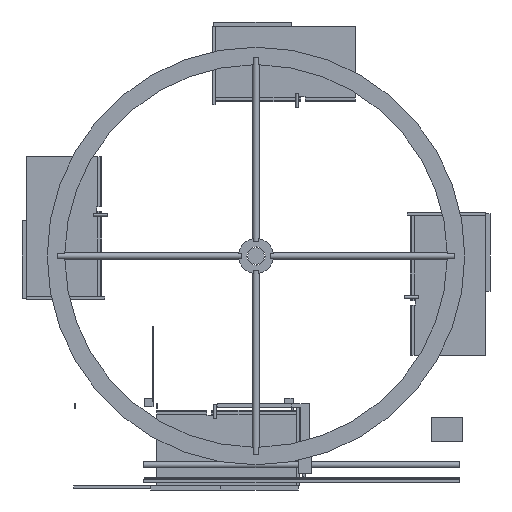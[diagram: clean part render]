
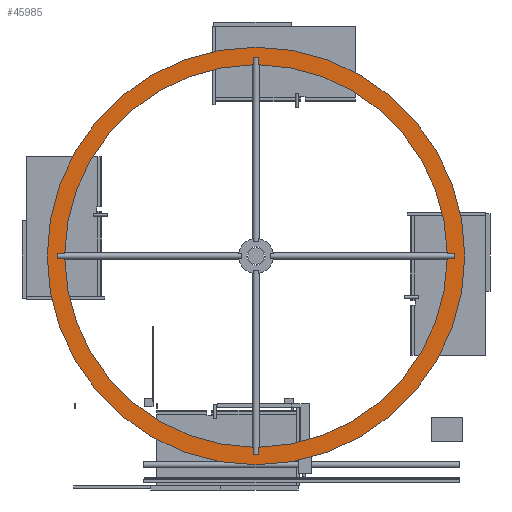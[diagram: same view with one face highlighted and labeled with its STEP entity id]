
A CAD part, left-side view. The second image highlights one B-rep face of the part: STEP entity #45985.
In plain terms, the highlighted planar face has unit normal (-1, 0, 0).
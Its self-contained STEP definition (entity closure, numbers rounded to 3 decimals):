
#45823 = VERTEX_POINT('',#45824);
#45824 = CARTESIAN_POINT('',(-120.,-150.,648.));
#45830 = EDGE_CURVE('',#45823,#45823,#45831,.T.);
#45831 = CIRCLE('',#45832,298.);
#45832 = AXIS2_PLACEMENT_3D('',#45833,#45834,#45835);
#45833 = CARTESIAN_POINT('',(-120.,-150.,350.));
#45834 = DIRECTION('',(1.,0.,-0.));
#45835 = DIRECTION('',(0.,0.,1.));
#45985 = ADVANCED_FACE('',(#45986,#45989),#46123,.F.);
#45986 = FACE_BOUND('',#45987,.F.);
#45987 = EDGE_LOOP('',(#45988));
#45988 = ORIENTED_EDGE('',*,*,#45830,.T.);
#45989 = FACE_BOUND('',#45990,.F.);
#45990 = EDGE_LOOP('',(#45991,#46002,#46010,#46018,#46026,#46035,#46043,
    #46051,#46059,#46068,#46076,#46084,#46092,#46101,#46109,#46117));
#45991 = ORIENTED_EDGE('',*,*,#45992,.F.);
#45992 = EDGE_CURVE('',#45993,#45995,#45997,.T.);
#45993 = VERTEX_POINT('',#45994);
#45994 = CARTESIAN_POINT('',(-120.,-154.,622.971));
#45995 = VERTEX_POINT('',#45996);
#45996 = CARTESIAN_POINT('',(-120.,-422.971,354.));
#45997 = CIRCLE('',#45998,273.);
#45998 = AXIS2_PLACEMENT_3D('',#45999,#46000,#46001);
#45999 = CARTESIAN_POINT('',(-120.,-150.,350.));
#46000 = DIRECTION('',(1.,0.,-0.));
#46001 = DIRECTION('',(0.,0.,1.));
#46002 = ORIENTED_EDGE('',*,*,#46003,.T.);
#46003 = EDGE_CURVE('',#45993,#46004,#46006,.T.);
#46004 = VERTEX_POINT('',#46005);
#46005 = CARTESIAN_POINT('',(-120.,-154.,633.));
#46006 = LINE('',#46007,#46008);
#46007 = CARTESIAN_POINT('',(-120.,-154.,370.));
#46008 = VECTOR('',#46009,1.);
#46009 = DIRECTION('',(0.,0.,1.));
#46010 = ORIENTED_EDGE('',*,*,#46011,.F.);
#46011 = EDGE_CURVE('',#46012,#46004,#46014,.T.);
#46012 = VERTEX_POINT('',#46013);
#46013 = CARTESIAN_POINT('',(-120.,-146.,633.));
#46014 = LINE('',#46015,#46016);
#46015 = CARTESIAN_POINT('',(-120.,-150.,633.));
#46016 = VECTOR('',#46017,1.);
#46017 = DIRECTION('',(0.,-1.,0.));
#46018 = ORIENTED_EDGE('',*,*,#46019,.F.);
#46019 = EDGE_CURVE('',#46020,#46012,#46022,.T.);
#46020 = VERTEX_POINT('',#46021);
#46021 = CARTESIAN_POINT('',(-120.,-146.,622.971));
#46022 = LINE('',#46023,#46024);
#46023 = CARTESIAN_POINT('',(-120.,-146.,370.));
#46024 = VECTOR('',#46025,1.);
#46025 = DIRECTION('',(0.,0.,1.));
#46026 = ORIENTED_EDGE('',*,*,#46027,.F.);
#46027 = EDGE_CURVE('',#46028,#46020,#46030,.T.);
#46028 = VERTEX_POINT('',#46029);
#46029 = CARTESIAN_POINT('',(-120.,122.971,354.));
#46030 = CIRCLE('',#46031,273.);
#46031 = AXIS2_PLACEMENT_3D('',#46032,#46033,#46034);
#46032 = CARTESIAN_POINT('',(-120.,-150.,350.));
#46033 = DIRECTION('',(1.,0.,-0.));
#46034 = DIRECTION('',(0.,0.,1.));
#46035 = ORIENTED_EDGE('',*,*,#46036,.T.);
#46036 = EDGE_CURVE('',#46028,#46037,#46039,.T.);
#46037 = VERTEX_POINT('',#46038);
#46038 = CARTESIAN_POINT('',(-120.,133.,354.));
#46039 = LINE('',#46040,#46041);
#46040 = CARTESIAN_POINT('',(-120.,-130.,354.));
#46041 = VECTOR('',#46042,1.);
#46042 = DIRECTION('',(0.,1.,0.));
#46043 = ORIENTED_EDGE('',*,*,#46044,.F.);
#46044 = EDGE_CURVE('',#46045,#46037,#46047,.T.);
#46045 = VERTEX_POINT('',#46046);
#46046 = CARTESIAN_POINT('',(-120.,133.,346.));
#46047 = LINE('',#46048,#46049);
#46048 = CARTESIAN_POINT('',(-120.,133.,350.));
#46049 = VECTOR('',#46050,1.);
#46050 = DIRECTION('',(0.,0.,1.));
#46051 = ORIENTED_EDGE('',*,*,#46052,.F.);
#46052 = EDGE_CURVE('',#46053,#46045,#46055,.T.);
#46053 = VERTEX_POINT('',#46054);
#46054 = CARTESIAN_POINT('',(-120.,122.971,346.));
#46055 = LINE('',#46056,#46057);
#46056 = CARTESIAN_POINT('',(-120.,-130.,346.));
#46057 = VECTOR('',#46058,1.);
#46058 = DIRECTION('',(0.,1.,0.));
#46059 = ORIENTED_EDGE('',*,*,#46060,.F.);
#46060 = EDGE_CURVE('',#46061,#46053,#46063,.T.);
#46061 = VERTEX_POINT('',#46062);
#46062 = CARTESIAN_POINT('',(-120.,-146.,77.029));
#46063 = CIRCLE('',#46064,273.);
#46064 = AXIS2_PLACEMENT_3D('',#46065,#46066,#46067);
#46065 = CARTESIAN_POINT('',(-120.,-150.,350.));
#46066 = DIRECTION('',(1.,0.,-0.));
#46067 = DIRECTION('',(0.,0.,1.));
#46068 = ORIENTED_EDGE('',*,*,#46069,.T.);
#46069 = EDGE_CURVE('',#46061,#46070,#46072,.T.);
#46070 = VERTEX_POINT('',#46071);
#46071 = CARTESIAN_POINT('',(-120.,-146.,67.));
#46072 = LINE('',#46073,#46074);
#46073 = CARTESIAN_POINT('',(-120.,-146.,330.));
#46074 = VECTOR('',#46075,1.);
#46075 = DIRECTION('',(0.,0.,-1.));
#46076 = ORIENTED_EDGE('',*,*,#46077,.F.);
#46077 = EDGE_CURVE('',#46078,#46070,#46080,.T.);
#46078 = VERTEX_POINT('',#46079);
#46079 = CARTESIAN_POINT('',(-120.,-154.,67.));
#46080 = LINE('',#46081,#46082);
#46081 = CARTESIAN_POINT('',(-120.,-150.,67.));
#46082 = VECTOR('',#46083,1.);
#46083 = DIRECTION('',(0.,1.,0.));
#46084 = ORIENTED_EDGE('',*,*,#46085,.F.);
#46085 = EDGE_CURVE('',#46086,#46078,#46088,.T.);
#46086 = VERTEX_POINT('',#46087);
#46087 = CARTESIAN_POINT('',(-120.,-154.,77.029));
#46088 = LINE('',#46089,#46090);
#46089 = CARTESIAN_POINT('',(-120.,-154.,330.));
#46090 = VECTOR('',#46091,1.);
#46091 = DIRECTION('',(0.,0.,-1.));
#46092 = ORIENTED_EDGE('',*,*,#46093,.F.);
#46093 = EDGE_CURVE('',#46094,#46086,#46096,.T.);
#46094 = VERTEX_POINT('',#46095);
#46095 = CARTESIAN_POINT('',(-120.,-422.971,346.));
#46096 = CIRCLE('',#46097,273.);
#46097 = AXIS2_PLACEMENT_3D('',#46098,#46099,#46100);
#46098 = CARTESIAN_POINT('',(-120.,-150.,350.));
#46099 = DIRECTION('',(1.,0.,-0.));
#46100 = DIRECTION('',(0.,0.,1.));
#46101 = ORIENTED_EDGE('',*,*,#46102,.T.);
#46102 = EDGE_CURVE('',#46094,#46103,#46105,.T.);
#46103 = VERTEX_POINT('',#46104);
#46104 = CARTESIAN_POINT('',(-120.,-433.,346.));
#46105 = LINE('',#46106,#46107);
#46106 = CARTESIAN_POINT('',(-120.,-170.,346.));
#46107 = VECTOR('',#46108,1.);
#46108 = DIRECTION('',(0.,-1.,0.));
#46109 = ORIENTED_EDGE('',*,*,#46110,.F.);
#46110 = EDGE_CURVE('',#46111,#46103,#46113,.T.);
#46111 = VERTEX_POINT('',#46112);
#46112 = CARTESIAN_POINT('',(-120.,-433.,354.));
#46113 = LINE('',#46114,#46115);
#46114 = CARTESIAN_POINT('',(-120.,-433.,350.));
#46115 = VECTOR('',#46116,1.);
#46116 = DIRECTION('',(0.,0.,-1.));
#46117 = ORIENTED_EDGE('',*,*,#46118,.F.);
#46118 = EDGE_CURVE('',#45995,#46111,#46119,.T.);
#46119 = LINE('',#46120,#46121);
#46120 = CARTESIAN_POINT('',(-120.,-170.,354.));
#46121 = VECTOR('',#46122,1.);
#46122 = DIRECTION('',(0.,-1.,0.));
#46123 = PLANE('',#46124);
#46124 = AXIS2_PLACEMENT_3D('',#46125,#46126,#46127);
#46125 = CARTESIAN_POINT('',(-120.,-150.,350.));
#46126 = DIRECTION('',(1.,0.,0.));
#46127 = DIRECTION('',(0.,0.,1.));
